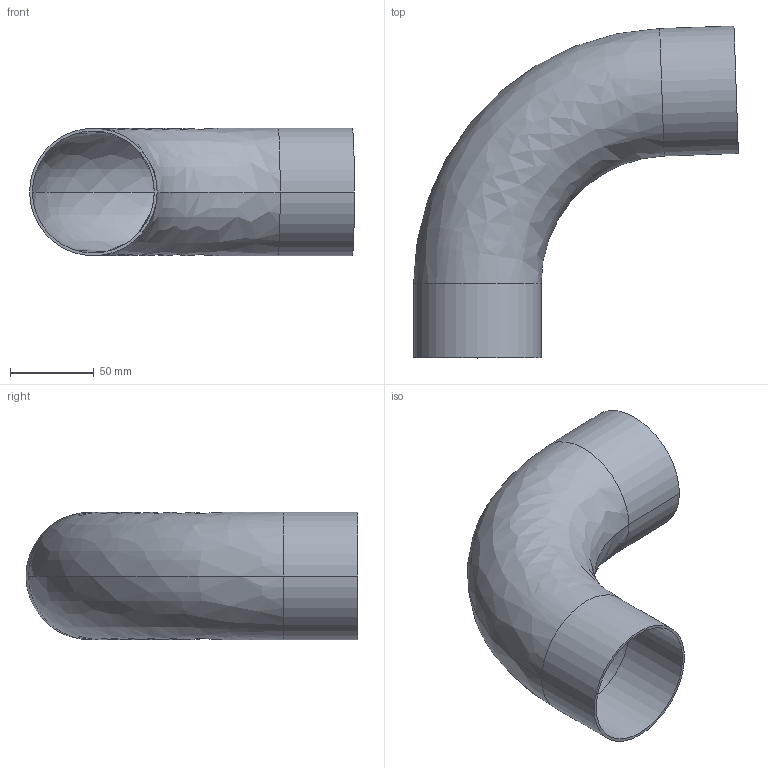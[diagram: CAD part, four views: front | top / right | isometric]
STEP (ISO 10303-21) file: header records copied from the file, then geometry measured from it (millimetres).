
FILE_DESCRIPTION (( 'STEP AP214' ), '1' );
FILE_NAME ('TE2S886L3.0-...STEP', '2016-05-22T08:46:22', ( 'eran' ), ( '' ), 'SwSTEP 2.0', 'SolidWorks 2016', '' );
FILE_SCHEMA (( 'AUTOMOTIVE_DESIGN' ));
Length unit declared in the file: millimetre
Products named in the file (1): TE2S886L3.0-..
Bounding box: 194.12 x 198.35 x 76.2 mm (x, y, z)
Volume: 102193.2 mm3; surface area: 124643.3 mm2
Topology: 1 solids, 1 shells, 14 faces, 28 edges, 16 vertices
Faces by surface type: cylinder 8, bspline 4, plane 2
Entity records: 450 total; most frequent: CARTESIAN_POINT 119, DIRECTION 70, ORIENTED_EDGE 56, AXIS2_PLACEMENT_3D 31, EDGE_CURVE 28, CIRCLE 20, VERTEX_POINT 16, EDGE_LOOP 16
